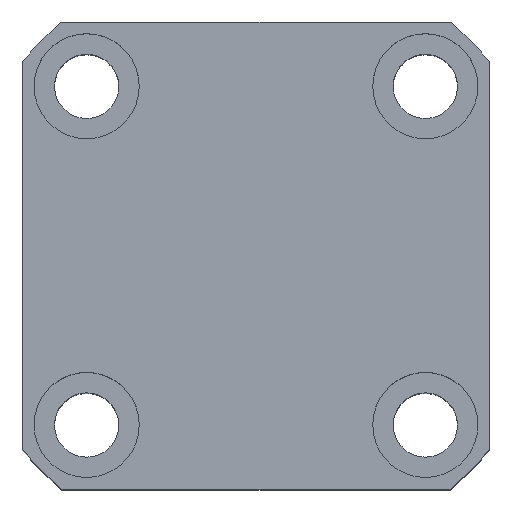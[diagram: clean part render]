
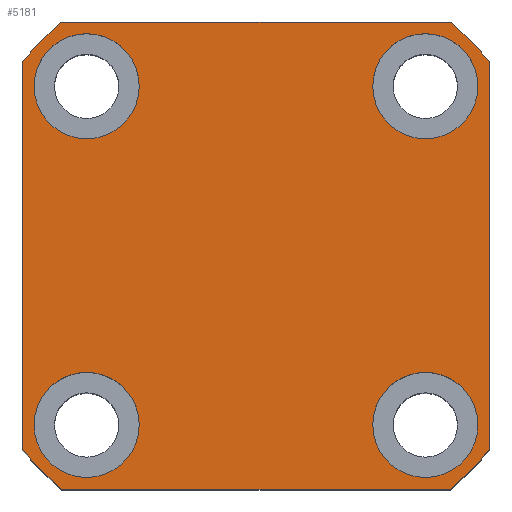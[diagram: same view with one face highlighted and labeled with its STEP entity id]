
A CAD part, top view. The second image highlights one B-rep face of the part: STEP entity #5181.
In plain terms, the highlighted planar face has unit normal (0, 0, 1).
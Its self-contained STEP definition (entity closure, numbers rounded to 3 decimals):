
#2832=FACE_BOUND('',#6204,.T.);
#2833=FACE_BOUND('',#6205,.T.);
#2834=FACE_BOUND('',#6206,.T.);
#2835=FACE_BOUND('',#6207,.T.);
#2836=FACE_BOUND('',#6208,.T.);
#2960=LINE('',#20836,#3814);
#2968=LINE('',#21569,#3822);
#2972=LINE('',#21581,#3826);
#2976=LINE('',#21593,#3830);
#3814=VECTOR('',#12641,1.);
#3822=VECTOR('',#12805,1.);
#3826=VECTOR('',#12817,1.);
#3830=VECTOR('',#12829,1.);
#4744=PLANE('',#12045);
#5181=ADVANCED_FACE('',(#2832,#2833,#2834,#2835,#2836),#4744,.T.);
#6204=EDGE_LOOP('',(#7251));
#6205=EDGE_LOOP('',(#7252));
#6206=EDGE_LOOP('',(#7253));
#6207=EDGE_LOOP('',(#7254));
#6208=EDGE_LOOP('',(#7255,#7256,#7257,#7258,#7259,#7260,#7261,#7262));
#6707=CIRCLE('',#11994,9.);
#6709=CIRCLE('',#11997,9.);
#6711=CIRCLE('',#12000,9.);
#6713=CIRCLE('',#12003,9.);
#6732=CIRCLE('',#12031,52.);
#6734=CIRCLE('',#12035,52.);
#6736=CIRCLE('',#12039,52.);
#6738=CIRCLE('',#12043,52.);
#7251=ORIENTED_EDGE('',*,*,#10462,.F.);
#7252=ORIENTED_EDGE('',*,*,#10464,.F.);
#7253=ORIENTED_EDGE('',*,*,#10466,.F.);
#7254=ORIENTED_EDGE('',*,*,#10468,.F.);
#7255=ORIENTED_EDGE('',*,*,#10488,.T.);
#7256=ORIENTED_EDGE('',*,*,#10491,.T.);
#7257=ORIENTED_EDGE('',*,*,#10494,.T.);
#7258=ORIENTED_EDGE('',*,*,#10497,.T.);
#7259=ORIENTED_EDGE('',*,*,#10500,.T.);
#7260=ORIENTED_EDGE('',*,*,#10503,.T.);
#7261=ORIENTED_EDGE('',*,*,#10505,.T.);
#7262=ORIENTED_EDGE('',*,*,#10390,.T.);
#9449=VERTEX_POINT('',#20835);
#9450=VERTEX_POINT('',#20837);
#9518=VERTEX_POINT('',#21500);
#9520=VERTEX_POINT('',#21505);
#9522=VERTEX_POINT('',#21510);
#9524=VERTEX_POINT('',#21515);
#9543=VERTEX_POINT('',#21562);
#9545=VERTEX_POINT('',#21568);
#9547=VERTEX_POINT('',#21574);
#9549=VERTEX_POINT('',#21580);
#9551=VERTEX_POINT('',#21586);
#9553=VERTEX_POINT('',#21592);
#10390=EDGE_CURVE('',#9450,#9449,#2960,.T.);
#10462=EDGE_CURVE('',#9518,#9518,#6707,.T.);
#10464=EDGE_CURVE('',#9520,#9520,#6709,.T.);
#10466=EDGE_CURVE('',#9522,#9522,#6711,.T.);
#10468=EDGE_CURVE('',#9524,#9524,#6713,.T.);
#10488=EDGE_CURVE('',#9449,#9543,#6732,.T.);
#10491=EDGE_CURVE('',#9543,#9545,#2968,.T.);
#10494=EDGE_CURVE('',#9545,#9547,#6734,.T.);
#10497=EDGE_CURVE('',#9547,#9549,#2972,.T.);
#10500=EDGE_CURVE('',#9549,#9551,#6736,.T.);
#10503=EDGE_CURVE('',#9551,#9553,#2976,.T.);
#10505=EDGE_CURVE('',#9553,#9450,#6738,.T.);
#11994=AXIS2_PLACEMENT_3D('',#21499,#12724,#12725);
#11997=AXIS2_PLACEMENT_3D('',#21504,#12730,#12731);
#12000=AXIS2_PLACEMENT_3D('',#21509,#12736,#12737);
#12003=AXIS2_PLACEMENT_3D('',#21514,#12742,#12743);
#12031=AXIS2_PLACEMENT_3D('',#21563,#12799,#12800);
#12035=AXIS2_PLACEMENT_3D('',#21575,#12811,#12812);
#12039=AXIS2_PLACEMENT_3D('',#21587,#12823,#12824);
#12043=AXIS2_PLACEMENT_3D('',#21596,#12834,#12835);
#12045=AXIS2_PLACEMENT_3D('',#21598,#12838,#12839);
#12641=DIRECTION('',(-1.,0.,0.));
#12724=DIRECTION('',(0.,0.,1.));
#12725=DIRECTION('',(1.,0.,0.));
#12730=DIRECTION('',(0.,0.,1.));
#12731=DIRECTION('',(1.,0.,0.));
#12736=DIRECTION('',(0.,0.,1.));
#12737=DIRECTION('',(1.,0.,0.));
#12742=DIRECTION('',(0.,0.,1.));
#12743=DIRECTION('',(1.,0.,0.));
#12799=DIRECTION('',(0.,0.,1.));
#12800=DIRECTION('',(1.,0.,0.));
#12805=DIRECTION('',(0.,-1.,0.));
#12811=DIRECTION('',(0.,0.,1.));
#12812=DIRECTION('',(1.,0.,0.));
#12817=DIRECTION('',(1.,0.,0.));
#12823=DIRECTION('',(0.,0.,1.));
#12824=DIRECTION('',(1.,0.,0.));
#12829=DIRECTION('',(0.,1.,0.));
#12834=DIRECTION('',(0.,0.,1.));
#12835=DIRECTION('',(1.,0.,0.));
#12838=DIRECTION('',(0.,0.,1.));
#12839=DIRECTION('',(-1.,0.,0.));
#20835=CARTESIAN_POINT('',(-33.226,40.,42.5));
#20836=CARTESIAN_POINT('',(-33.226,40.,42.5));
#20837=CARTESIAN_POINT('',(33.226,40.,42.5));
#21499=CARTESIAN_POINT('',(29.,-29.,42.5));
#21500=CARTESIAN_POINT('',(38.,-29.,42.5));
#21504=CARTESIAN_POINT('',(-29.,-29.,42.5));
#21505=CARTESIAN_POINT('',(-20.,-29.,42.5));
#21509=CARTESIAN_POINT('',(-29.,29.,42.5));
#21510=CARTESIAN_POINT('',(-20.,29.,42.5));
#21514=CARTESIAN_POINT('',(29.,29.,42.5));
#21515=CARTESIAN_POINT('',(38.,29.,42.5));
#21562=CARTESIAN_POINT('',(-40.,33.226,42.5));
#21563=CARTESIAN_POINT('',(0.,0.,42.5));
#21568=CARTESIAN_POINT('',(-40.,-33.226,42.5));
#21569=CARTESIAN_POINT('',(-40.,33.226,42.5));
#21574=CARTESIAN_POINT('',(-33.226,-40.,42.5));
#21575=CARTESIAN_POINT('',(0.,0.,42.5));
#21580=CARTESIAN_POINT('',(33.226,-40.,42.5));
#21581=CARTESIAN_POINT('',(-33.226,-40.,42.5));
#21586=CARTESIAN_POINT('',(40.,-33.226,42.5));
#21587=CARTESIAN_POINT('',(0.,0.,42.5));
#21592=CARTESIAN_POINT('',(40.,33.226,42.5));
#21593=CARTESIAN_POINT('',(40.,33.226,42.5));
#21596=CARTESIAN_POINT('',(0.,0.,42.5));
#21598=CARTESIAN_POINT('',(0.,0.,42.5));
